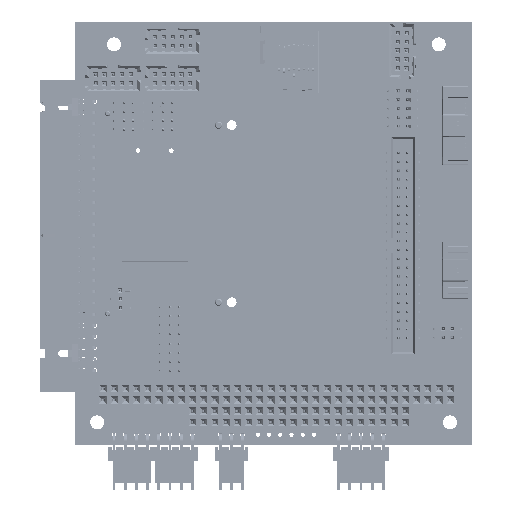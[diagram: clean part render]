
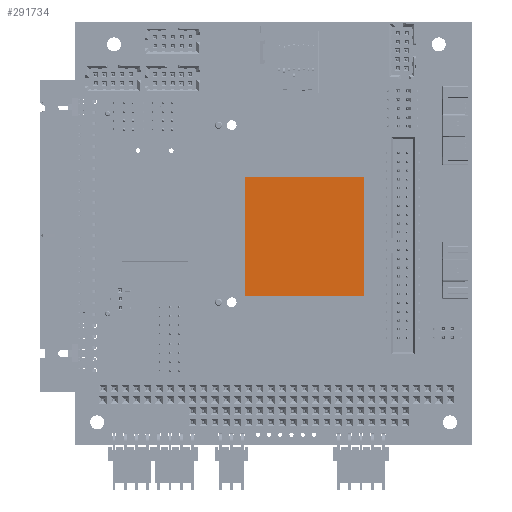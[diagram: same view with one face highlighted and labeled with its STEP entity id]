
A CAD part, top view. The second image highlights one B-rep face of the part: STEP entity #291734.
In plain terms, the highlighted planar face has unit normal (0, 0, 1).
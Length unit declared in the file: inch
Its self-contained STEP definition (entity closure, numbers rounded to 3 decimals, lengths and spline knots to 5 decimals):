
#291358 = EDGE_LOOP ( 'NONE', ( #291971, #291790, #292046, #291600 ) ) ;
#291600 = ORIENTED_EDGE ( 'NONE', *, *, #292048, .F. ) ;
#291716 = VERTEX_POINT ( 'NONE', #336016 ) ;
#291720 = VERTEX_POINT ( 'NONE', #335900 ) ;
#291734 = ADVANCED_FACE ( 'NONE', ( #336150 ), #335851, .T. ) ;
#291790 = ORIENTED_EDGE ( 'NONE', *, *, #291997, .F. ) ;
#291792 = EDGE_CURVE ( 'NONE', #291925, #291842, #336186, .T. ) ;
#291842 = VERTEX_POINT ( 'NONE', #336301 ) ;
#291847 = EDGE_CURVE ( 'NONE', #291716, #291720, #335378, .T. ) ;
#291925 = VERTEX_POINT ( 'NONE', #336506 ) ;
#291971 = ORIENTED_EDGE ( 'NONE', *, *, #291847, .F. ) ;
#291997 = EDGE_CURVE ( 'NONE', #291842, #291716, #336606, .T. ) ;
#292046 = ORIENTED_EDGE ( 'NONE', *, *, #291792, .F. ) ;
#292048 = EDGE_CURVE ( 'NONE', #291720, #291925, #336820, .T. ) ;
#335289 = DIRECTION ( 'NONE',  ( 1., 0., 0. ) ) ;
#335294 = VECTOR ( 'NONE', #335289, 39.37008 ) ;
#335301 = CARTESIAN_POINT ( 'NONE',  ( -0.5315, 0.5315, 0.07205 ) ) ;
#335378 = LINE ( 'NONE', #335301, #335294 ) ;
#335851 = PLANE ( 'NONE',  #336105 ) ;
#335900 = CARTESIAN_POINT ( 'NONE',  ( 0.5315, 0.5315, 0.07205 ) ) ;
#336016 = CARTESIAN_POINT ( 'NONE',  ( -0.5315, 0.5315, 0.07205 ) ) ;
#336105 = AXIS2_PLACEMENT_3D ( 'NONE', #336271, #336268, #336263 ) ;
#336150 = FACE_OUTER_BOUND ( 'NONE', #291358, .T. ) ;
#336175 = DIRECTION ( 'NONE',  ( -1., 0., 0. ) ) ;
#336178 = CARTESIAN_POINT ( 'NONE',  ( 0.5315, -0.5315, 0.07205 ) ) ;
#336186 = LINE ( 'NONE', #336178, #336406 ) ;
#336263 = DIRECTION ( 'NONE',  ( 1., 0., 0. ) ) ;
#336268 = DIRECTION ( 'NONE',  ( 0., 0., 1. ) ) ;
#336271 = CARTESIAN_POINT ( 'NONE',  ( -0.5315, -0.5315, 0.07205 ) ) ;
#336301 = CARTESIAN_POINT ( 'NONE',  ( -0.5315, -0.5315, 0.07205 ) ) ;
#336406 = VECTOR ( 'NONE', #336175, 39.37008 ) ;
#336506 = CARTESIAN_POINT ( 'NONE',  ( 0.5315, -0.5315, 0.07205 ) ) ;
#336606 = LINE ( 'NONE', #336620, #336826 ) ;
#336616 = DIRECTION ( 'NONE',  ( 0., 1., 0. ) ) ;
#336620 = CARTESIAN_POINT ( 'NONE',  ( -0.5315, -0.5315, 0.07205 ) ) ;
#336777 = VECTOR ( 'NONE', #336928, 39.37008 ) ;
#336804 = CARTESIAN_POINT ( 'NONE',  ( 0.5315, 0.5315, 0.07205 ) ) ;
#336820 = LINE ( 'NONE', #336804, #336777 ) ;
#336826 = VECTOR ( 'NONE', #336616, 39.37008 ) ;
#336928 = DIRECTION ( 'NONE',  ( 0., -1., 0. ) ) ;
